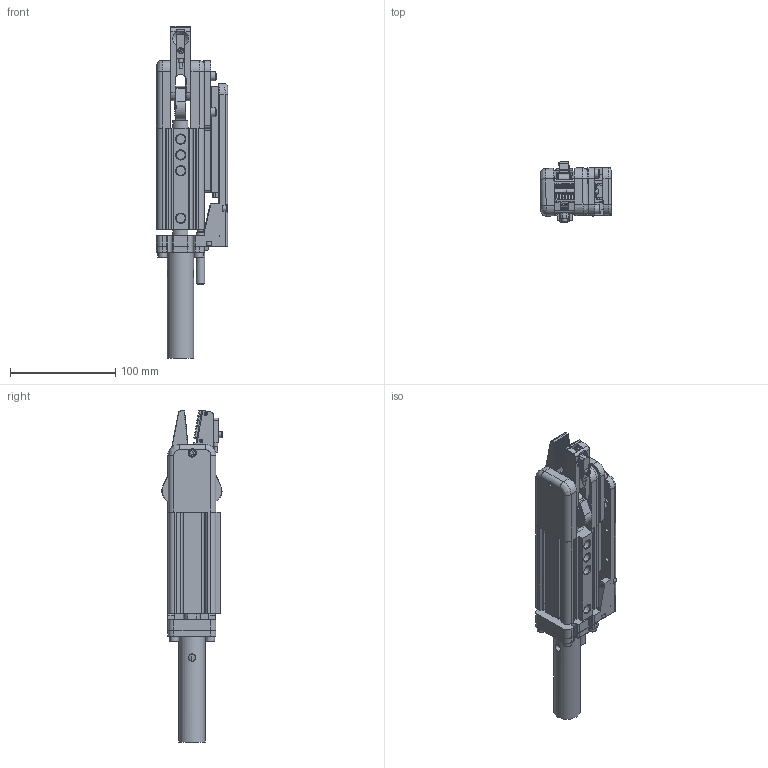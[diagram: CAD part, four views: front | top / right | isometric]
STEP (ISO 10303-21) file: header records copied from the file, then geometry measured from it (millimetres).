
FILE_DESCRIPTION(/* description */ (''),/* implementation_level */ '2;1');
FILE_NAME(/* name */ '8Y00464-GRP32A-30CP--25.stp',/* time_stamp */ '2023-02-22T13:07:14+08:00',/* author */ (''),/* organization */ (''),/* preprocessor_version */ 'ST-DEVELOPER v16',/* originating_system */ 'SIEMENS PLM Software NX 10.0',/* authorisation */ '');
FILE_SCHEMA (('AUTOMOTIVE_DESIGN { 1 0 10303 214 3 1 1 1 }'));
Products named in the file (1): _model38
Bounding box: 67.52 x 57.23 x 314.73 mm (x, y, z)
Volume: 390645.9 mm3; surface area: 157310 mm2
Topology: 17 solids, 40 shells, 2045 faces, 4735 edges, 2771 vertices
Faces by surface type: plane 1480, cylinder 348, cone 154, torus 33, bspline 15, revolution 14, sphere 1
Full cylindrical faces by diameter (mm): 2.4 x1, 2.5 x4, 3 x5, 3.1 x1, 3.3 x6, 3.4 x3, 4 x12, 4.1 x1, 4.2 x14, 4.5 x11, 5 x14, 5.2 x8, 5.5 x9, 6 x9, 6.5 x1, 6.647 x1, 7 x12, 8 x10, 8.1 x1, 8.5 x13, 8.566 x4, 9 x12, 10 x5, 13 x1, 13.5 x1, 14 x1, 15 x2, 16 x3, 17 x12, 20 x3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
Entity records: 74296 total; most frequent: CARTESIAN_POINT 16248, DIRECTION 9068, ORIENTED_EDGE 8308, EDGE_CURVE 4154, AXIS2_PLACEMENT_3D 3066, LINE 2922, VECTOR 2922, VERTEX_POINT 2625
